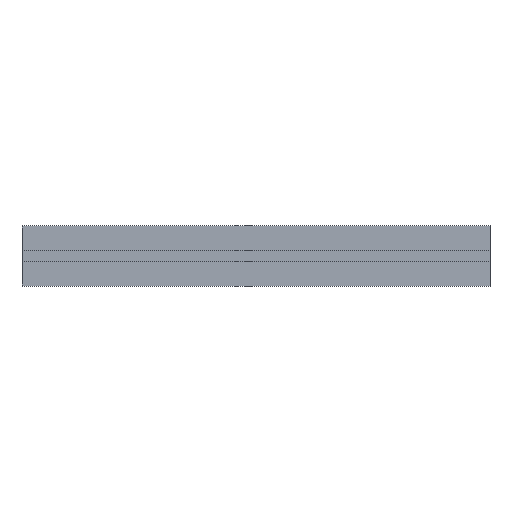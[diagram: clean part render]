
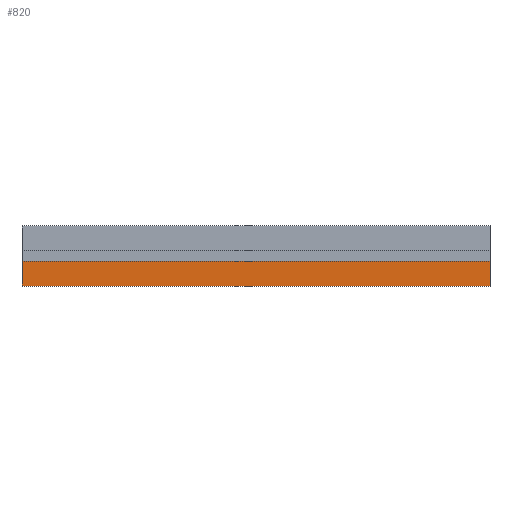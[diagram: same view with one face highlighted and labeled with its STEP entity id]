
A CAD part, left-side view. The second image highlights one B-rep face of the part: STEP entity #820.
In plain terms, the highlighted planar face has unit normal (-1, 0, 0).
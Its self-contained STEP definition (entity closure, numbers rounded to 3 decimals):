
#177 = VERTEX_POINT ( 'NONE', #1247 ) ;
#180 = VERTEX_POINT ( 'NONE', #1242 ) ;
#182 = EDGE_CURVE ( 'NONE', #177, #180, #1241, .T. ) ;
#765 = EDGE_LOOP ( 'NONE', ( #821, #922, #923, #926 ) ) ;
#820 = ADVANCED_FACE ( 'NONE', ( #2176 ), #2204, .T. ) ;
#821 = ORIENTED_EDGE ( 'NONE', *, *, #920, .F. ) ;
#920 = EDGE_CURVE ( 'NONE', #177, #921, #2357, .T. ) ;
#921 = VERTEX_POINT ( 'NONE', #2399 ) ;
#922 = ORIENTED_EDGE ( 'NONE', *, *, #182, .T. ) ;
#923 = ORIENTED_EDGE ( 'NONE', *, *, #924, .T. ) ;
#924 = EDGE_CURVE ( 'NONE', #180, #925, #2346, .T. ) ;
#925 = VERTEX_POINT ( 'NONE', #2380 ) ;
#926 = ORIENTED_EDGE ( 'NONE', *, *, #927, .F. ) ;
#927 = EDGE_CURVE ( 'NONE', #921, #925, #2354, .T. ) ;
#1238 = DIRECTION ( 'NONE',  ( 0., -1., 0. ) ) ;
#1239 = VECTOR ( 'NONE', #1238, 1000. ) ;
#1240 = CARTESIAN_POINT ( 'NONE',  ( 224.8, -196.4, 17.9 ) ) ;
#1241 = LINE ( 'NONE', #1240, #1239 ) ;
#1242 = CARTESIAN_POINT ( 'NONE',  ( 224.8, -696.4, 17.9 ) ) ;
#1247 = CARTESIAN_POINT ( 'NONE',  ( 224.8, -196.4, 17.9 ) ) ;
#2176 = FACE_OUTER_BOUND ( 'NONE', #765, .T. ) ;
#2204 = PLANE ( 'NONE',  #2211 ) ;
#2208 = DIRECTION ( 'NONE',  ( 0., 0., 1. ) ) ;
#2209 = DIRECTION ( 'NONE',  ( -1., 0., 0. ) ) ;
#2210 = CARTESIAN_POINT ( 'NONE',  ( 224.8, -196.4, 17.9 ) ) ;
#2211 = AXIS2_PLACEMENT_3D ( 'NONE', #2210, #2209, #2208 ) ;
#2344 = VECTOR ( 'NONE', #2381, 1000. ) ;
#2345 = CARTESIAN_POINT ( 'NONE',  ( 224.8, -696.4, 50. ) ) ;
#2346 = LINE ( 'NONE', #2345, #2344 ) ;
#2351 = DIRECTION ( 'NONE',  ( 0., -1., 0. ) ) ;
#2352 = VECTOR ( 'NONE', #2351, 1000. ) ;
#2353 = CARTESIAN_POINT ( 'NONE',  ( 224.8, -196.4, 44.5 ) ) ;
#2354 = LINE ( 'NONE', #2353, #2352 ) ;
#2357 = LINE ( 'NONE', #2369, #2368 ) ;
#2367 = DIRECTION ( 'NONE',  ( 0., 0., 1. ) ) ;
#2368 = VECTOR ( 'NONE', #2367, 1000. ) ;
#2369 = CARTESIAN_POINT ( 'NONE',  ( 224.8, -196.4, 50. ) ) ;
#2380 = CARTESIAN_POINT ( 'NONE',  ( 224.8, -696.4, 44.5 ) ) ;
#2381 = DIRECTION ( 'NONE',  ( 0., 0., 1. ) ) ;
#2399 = CARTESIAN_POINT ( 'NONE',  ( 224.8, -196.4, 44.5 ) ) ;
